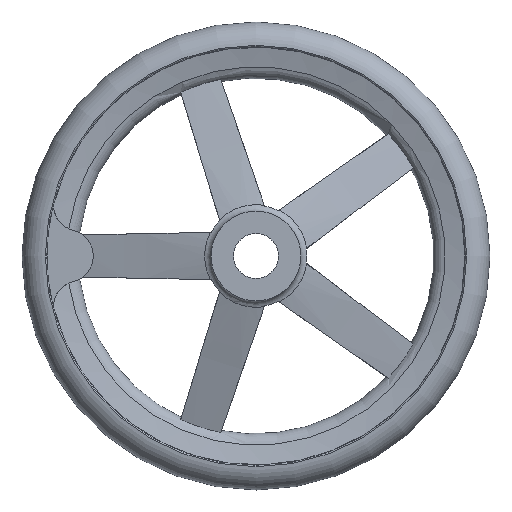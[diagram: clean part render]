
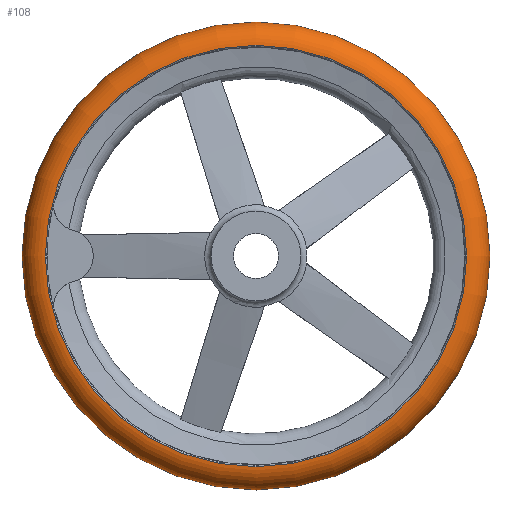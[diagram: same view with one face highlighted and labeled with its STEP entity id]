
A CAD part, left-side view. The second image highlights one B-rep face of the part: STEP entity #108.
In plain terms, the highlighted toroidal (fillet/blend) face has major radius 111.988 mm and minor radius 13.012 mm.
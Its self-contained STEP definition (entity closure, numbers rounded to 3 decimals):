
#108 = ADVANCED_FACE( '', ( #206, #207, #208 ), #209, .T. );
#206 = FACE_BOUND( '', #325, .T. );
#207 = FACE_OUTER_BOUND( '', #326, .T. );
#208 = FACE_OUTER_BOUND( '', #327, .T. );
#209 = TOROIDAL_SURFACE( '', #328, 111.988, 13.012 );
#325 = VERTEX_LOOP( '', #648 );
#326 = EDGE_LOOP( '', ( #649 ) );
#327 = EDGE_LOOP( '', ( #650 ) );
#328 = AXIS2_PLACEMENT_3D( '', #651, #652, #653 );
#648 = VERTEX_POINT( '', #886 );
#649 = ORIENTED_EDGE( '', *, *, #887, .T. );
#650 = ORIENTED_EDGE( '', *, *, #885, .F. );
#651 = CARTESIAN_POINT( '', ( 37., 0., 0. ) );
#652 = DIRECTION( '', ( -1., 0., 0. ) );
#653 = DIRECTION( '', ( 0., -1., 0. ) );
#885 = EDGE_CURVE( '', #1102, #1102, #1103, .T. );
#886 = CARTESIAN_POINT( '', ( 37., -125., 0. ) );
#887 = EDGE_CURVE( '', #1104, #1104, #1105, .T. );
#1102 = VERTEX_POINT( '', #1898 );
#1103 = CIRCLE( '', #1899, 112.542 );
#1104 = VERTEX_POINT( '', #1900 );
#1105 = CIRCLE( '', #1901, 112.542 );
#1898 = CARTESIAN_POINT( '', ( 24., -112.542, 0. ) );
#1899 = AXIS2_PLACEMENT_3D( '', #2102, #2103, #2104 );
#1900 = CARTESIAN_POINT( '', ( 50., -112.542, 0. ) );
#1901 = AXIS2_PLACEMENT_3D( '', #2105, #2106, #2107 );
#2102 = CARTESIAN_POINT( '', ( 24., 0., 0. ) );
#2103 = DIRECTION( '', ( -1., 0., 0. ) );
#2104 = DIRECTION( '', ( 0., -1., 0. ) );
#2105 = CARTESIAN_POINT( '', ( 50., 0., 0. ) );
#2106 = DIRECTION( '', ( -1., 0., 0. ) );
#2107 = DIRECTION( '', ( 0., -1., 0. ) );
